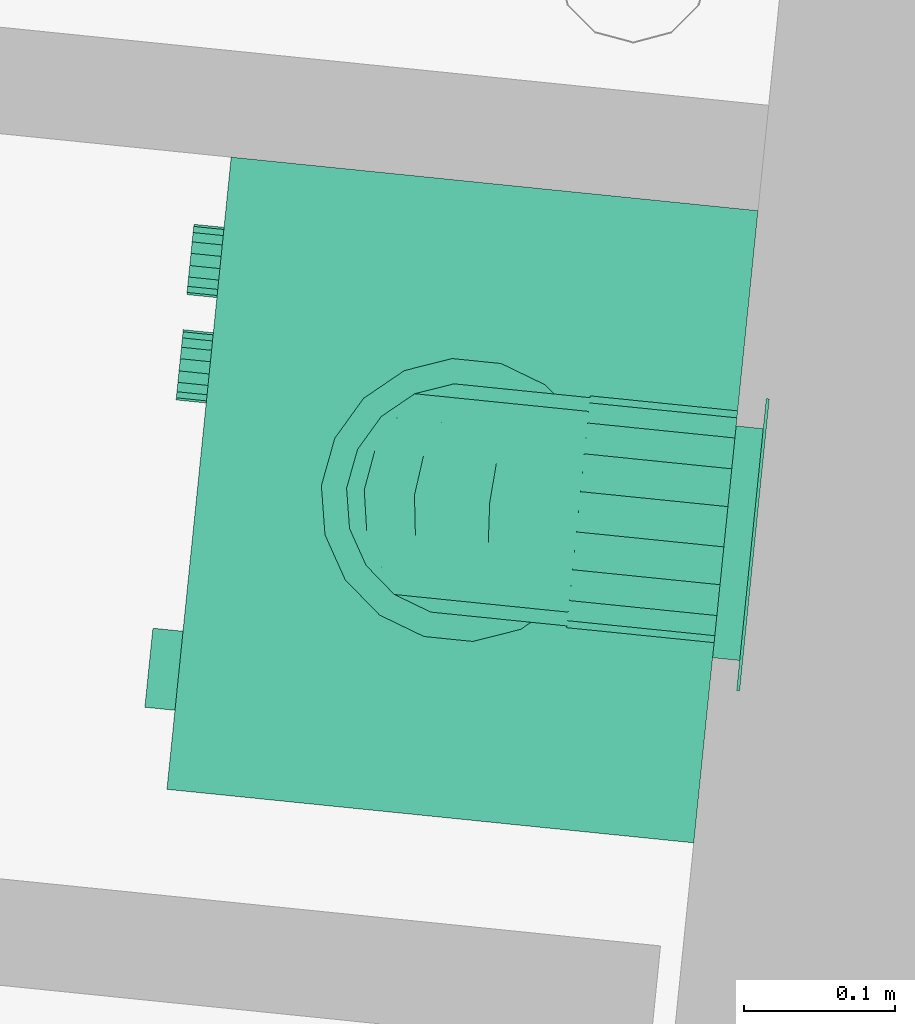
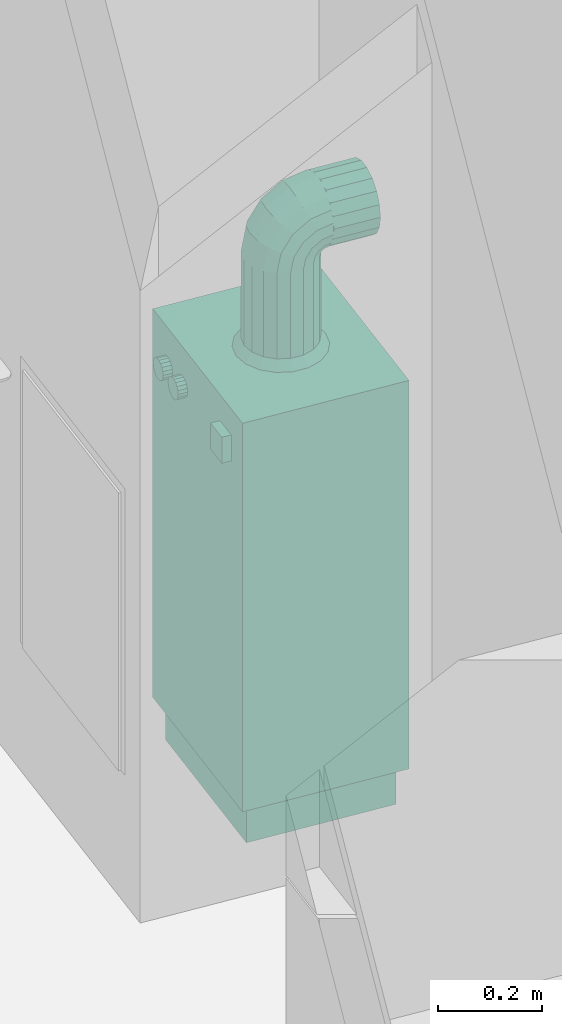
# One storey, part 128 of 171: 1 distribution element.
"""IFC2X3 building model written with IfcOpenShell, lengths in millimetres."""

from ifc_helpers import new_model, entity, si_unit, converted_unit, derived_unit, money_unit, direction, frame, origin_with_axes, place, context, subcontext, project, spatial, open_shell, faceted_brep, surface_model, source, transform, mapped, type_object, element, save


model = new_model("IFC2X3")

# Units and contexts
model_context = context("Model", 3, precision=0.01, world=origin_with_axes(), true_north=direction((0.0, 1.0)))
body_context = subcontext(model_context, "Body", "Model", "MODEL_VIEW")
ifc_project = project(units=[si_unit("LENGTHUNIT", "METRE", prefix="MILLI"), si_unit("AREAUNIT", "SQUARE_METRE"), si_unit("VOLUMEUNIT", "CUBIC_METRE"), converted_unit("PLANEANGLEUNIT", "DEGREE", entity("IfcPlaneAngleMeasure", 0.0174532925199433), si_unit("PLANEANGLEUNIT", "RADIAN"), dimensions=[0, 0, 0, 0, 0, 0, 0]), money_unit("USD"), converted_unit("TIMEUNIT", "Year", entity("IfcTimeMeasure", 31557600.0), si_unit("TIMEUNIT", "SECOND"), dimensions=[0, 0, 1, 0, 0, 0, 0]), si_unit("MASSUNIT", "GRAM", prefix="KILO"), si_unit("THERMODYNAMICTEMPERATUREUNIT", "DEGREE_CELSIUS"), si_unit("LUMINOUSINTENSITYUNIT", "LUMEN"), si_unit("ENERGYUNIT", "JOULE", prefix="MEGA"), derived_unit("THERMALCONDUCTANCEUNIT", [(si_unit("POWERUNIT", "WATT"), 1), (si_unit("LENGTHUNIT", "METRE"), -1), (si_unit("THERMODYNAMICTEMPERATUREUNIT", "KELVIN"), -1)]), derived_unit("SPECIFICHEATCAPACITYUNIT", [(si_unit("ENERGYUNIT", "JOULE"), 1), (si_unit("MASSUNIT", "GRAM", prefix="KILO"), -1), (si_unit("THERMODYNAMICTEMPERATUREUNIT", "KELVIN"), -1)]), derived_unit("MASSDENSITYUNIT", [(si_unit("MASSUNIT", "GRAM", prefix="KILO"), 1), (si_unit("VOLUMEUNIT", "CUBIC_METRE"), -1)])], contexts=[model_context])

# Site, building, storey
site_placement = place(None, origin_with_axes())
site = spatial("IfcSite", under=ifc_project, at=site_placement, Name="Site", CompositionType="ELEMENT")
building_placement = place(site_placement, origin_with_axes())
building = spatial("IfcBuilding", under=site, at=building_placement, Name="Bâtiment", CompositionType="ELEMENT")
storey_placement = place(building_placement, frame((0.0, 0.0, 3000.0), z_axis=(0.0, 0.0, 1.0), x_axis=(1.0, 0.0, 0.0)))
storey = spatial("IfcBuildingStorey", under=building, at=storey_placement, Name="rdc", CompositionType="ELEMENT", Elevation=3000.0)

# Distribution element
distribution_element_type = type_object("IfcDistributionElementType", Name="Chaudière à gaz 27")
shared_shape = source(origin_with_axes(), body_context, "Body", "SurfaceModel", [
    surface_model("IfcShellBasedSurfaceModel", [(-200.0, 350.0, 34.90909090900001), (-200.0, 368.0, 34.90909090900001), (-180.0709335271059, 368.0, 37.53280228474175), (-180.0709335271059, 350.0, 37.53280228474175), (-219.9290664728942, 350.0, 37.53280228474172), (-219.9290664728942, 368.0, 37.53280228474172), (-161.5, 368.0, 45.22513481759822), (-161.5, 350.0, 45.22513481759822), (-238.5000000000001, 350.0, 45.22513481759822), (-238.5000000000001, 368.0, 45.22513481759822), (-145.5527778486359, 368.0, 57.46186875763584), (-145.5527778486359, 350.0, 57.46186875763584), (-254.4472221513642, 350.0, 57.46186875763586), (-254.4472221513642, 368.0, 57.46186875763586), (-133.3160439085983, 368.0, 73.409090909), (-133.3160439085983, 350.0, 73.409090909), (-266.6839560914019, 350.0, 73.40909090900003), (-266.6839560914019, 368.0, 73.40909090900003), (-125.6237113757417, 368.0, 91.9800244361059), (-125.6237113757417, 350.0, 91.9800244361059), (-274.3762886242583, 350.0, 91.98002443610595), (-274.3762886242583, 368.0, 91.98002443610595), (-123.0, 368.0, 111.909090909), (-123.0, 350.0, 111.909090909), (-277.0, 350.0, 111.909090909), (-277.0, 368.0, 111.909090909), (-125.6237113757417, 368.0, 131.8381573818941), (-125.6237113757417, 350.0, 131.8381573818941), (-274.3762886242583, 350.0, 131.8381573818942), (-274.3762886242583, 368.0, 131.8381573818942), (-133.3160439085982, 368.0, 150.409090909), (-133.3160439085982, 350.0, 150.409090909), (-266.6839560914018, 350.0, 150.4090909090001), (-266.6839560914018, 368.0, 150.4090909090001), (-145.5527778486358, 368.0, 166.3563130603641), (-145.5527778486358, 350.0, 166.3563130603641), (-254.4472221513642, 350.0, 166.3563130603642), (-254.4472221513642, 368.0, 166.3563130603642), (-161.5, 368.0, 178.5930470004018), (-161.5, 350.0, 178.5930470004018), (-238.5, 350.0, 178.5930470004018), (-238.5, 368.0, 178.5930470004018), (-180.0709335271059, 368.0, 186.2853795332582), (-180.0709335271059, 350.0, 186.2853795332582), (-219.929066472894, 350.0, 186.2853795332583), (-219.929066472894, 368.0, 186.2853795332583), (-200.0, 368.0, 188.909090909), (-200.0, 350.0, 188.909090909)], [open_shell([[[0, 1, 2, 3]], [[4, 5, 1, 0]], [[3, 2, 6, 7]], [[8, 9, 5, 4]], [[7, 6, 10, 11]], [[12, 13, 9, 8]], [[11, 10, 14, 15]], [[16, 17, 13, 12]], [[15, 14, 18, 19]], [[20, 21, 17, 16]], [[19, 18, 22, 23]], [[24, 25, 21, 20]], [[23, 22, 26, 27]], [[28, 29, 25, 24]], [[27, 26, 30, 31]], [[32, 33, 29, 28]], [[31, 30, 34, 35]], [[36, 37, 33, 32]], [[35, 34, 38, 39]], [[40, 41, 37, 36]], [[39, 38, 42, 43]], [[44, 45, 41, 40]], [[43, 42, 46, 47]], [[47, 46, 45, 44]]])]),
    faceted_brep([(-200.0, 368.0, 14.909090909), (-200.0, 370.0, 14.909090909), (-174.8945526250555, 370.0, 18.21428575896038), (-174.8945526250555, 368.0, 18.21428575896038), (-225.1054473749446, 368.0, 18.21428575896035), (-225.1054473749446, 370.0, 18.21428575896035), (-248.5000000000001, 370.0, 27.90462674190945), (-268.5893577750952, 370.0, 43.31973313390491), (-284.0044641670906, 370.0, 63.40909090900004), (-293.6948051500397, 370.0, 86.80364353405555), (-297.0000000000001, 370.0, 111.909090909), (-293.6948051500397, 370.0, 137.0145382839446), (-284.0044641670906, 370.0, 160.4090909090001), (-268.5893577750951, 370.0, 180.4984486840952), (-248.5, 370.0, 195.9135550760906), (-225.1054473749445, 370.0, 205.6038960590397), (-199.9999999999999, 370.0, 208.909090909), (-174.8945526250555, 370.0, 205.6038960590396), (-151.5, 370.0, 195.9135550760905), (-131.4106422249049, 370.0, 180.4984486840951), (-115.9955358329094, 370.0, 160.409090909), (-106.3051948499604, 370.0, 137.0145382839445), (-103.0, 370.0, 111.909090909), (-106.3051948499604, 370.0, 86.80364353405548), (-115.9955358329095, 370.0, 63.40909090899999), (-131.4106422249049, 370.0, 43.31973313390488), (-151.5, 370.0, 27.90462674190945), (-200.0, 370.0, 34.90909090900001), (-180.0709335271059, 370.0, 37.53280228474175), (-161.5, 370.0, 45.22513481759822), (-145.5527778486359, 370.0, 57.46186875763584), (-133.3160439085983, 370.0, 73.409090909), (-125.6237113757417, 370.0, 91.9800244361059), (-123.0, 370.0, 111.909090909), (-125.6237113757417, 370.0, 131.8381573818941), (-133.3160439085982, 370.0, 150.409090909), (-145.5527778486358, 370.0, 166.3563130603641), (-161.5, 370.0, 178.5930470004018), (-180.0709335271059, 370.0, 186.2853795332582), (-200.0, 370.0, 188.909090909), (-219.929066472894, 370.0, 186.2853795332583), (-238.5, 370.0, 178.5930470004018), (-254.4472221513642, 370.0, 166.3563130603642), (-266.6839560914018, 370.0, 150.4090909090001), (-274.3762886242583, 370.0, 131.8381573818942), (-277.0, 370.0, 111.909090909), (-274.3762886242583, 370.0, 91.98002443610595), (-266.6839560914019, 370.0, 73.40909090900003), (-254.4472221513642, 370.0, 57.46186875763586), (-238.5000000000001, 370.0, 45.22513481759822), (-219.9290664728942, 370.0, 37.53280228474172), (-151.5, 368.0, 27.90462674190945), (-131.4106422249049, 368.0, 43.31973313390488), (-115.9955358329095, 368.0, 63.40909090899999), (-106.3051948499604, 368.0, 86.80364353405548), (-103.0, 368.0, 111.909090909), (-106.3051948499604, 368.0, 137.0145382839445), (-115.9955358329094, 368.0, 160.409090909), (-131.4106422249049, 368.0, 180.4984486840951), (-151.5, 368.0, 195.9135550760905), (-174.8945526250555, 368.0, 205.6038960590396), (-199.9999999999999, 368.0, 208.909090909), (-225.1054473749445, 368.0, 205.6038960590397), (-248.5, 368.0, 195.9135550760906), (-268.5893577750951, 368.0, 180.4984486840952), (-284.0044641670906, 368.0, 160.4090909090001), (-293.6948051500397, 368.0, 137.0145382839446), (-297.0000000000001, 368.0, 111.909090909), (-293.6948051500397, 368.0, 86.80364353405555), (-284.0044641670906, 368.0, 63.40909090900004), (-268.5893577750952, 368.0, 43.31973313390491), (-248.5000000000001, 368.0, 27.90462674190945), (-200.0, 368.0, 34.90909090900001), (-219.9290664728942, 368.0, 37.53280228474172), (-238.5000000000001, 368.0, 45.22513481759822), (-254.4472221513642, 368.0, 57.46186875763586), (-266.6839560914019, 368.0, 73.40909090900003), (-274.3762886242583, 368.0, 91.98002443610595), (-277.0, 368.0, 111.909090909), (-274.3762886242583, 368.0, 131.8381573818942), (-266.6839560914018, 368.0, 150.4090909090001), (-254.4472221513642, 368.0, 166.3563130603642), (-238.5, 368.0, 178.5930470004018), (-219.929066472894, 368.0, 186.2853795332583), (-200.0, 368.0, 188.909090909), (-180.0709335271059, 368.0, 186.2853795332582), (-161.5, 368.0, 178.5930470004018), (-145.5527778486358, 368.0, 166.3563130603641), (-133.3160439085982, 368.0, 150.409090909), (-125.6237113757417, 368.0, 131.8381573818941), (-123.0, 368.0, 111.909090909), (-125.6237113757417, 368.0, 91.9800244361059), (-133.3160439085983, 368.0, 73.409090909), (-145.5527778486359, 368.0, 57.46186875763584), (-161.5, 368.0, 45.22513481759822), (-180.0709335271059, 368.0, 37.53280228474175)], [[[0, 1, 2, 3]], [[4, 5, 1, 0]], [[1, 5, 6, 7, 8, 9, 10, 11, 12, 13, 14, 15, 16, 17, 18, 19, 20, 21, 22, 23, 24, 25, 26, 2], [27, 28, 29, 30, 31, 32, 33, 34, 35, 36, 37, 38, 39, 40, 41, 42, 43, 44, 45, 46, 47, 48, 49, 50]], [[3, 2, 26, 51]], [[0, 3, 51, 52, 53, 54, 55, 56, 57, 58, 59, 60, 61, 62, 63, 64, 65, 66, 67, 68, 69, 70, 71, 4], [72, 73, 74, 75, 76, 77, 78, 79, 80, 81, 82, 83, 84, 85, 86, 87, 88, 89, 90, 91, 92, 93, 94, 95]], [[71, 6, 5, 4]], [[70, 7, 6, 71]], [[69, 8, 7, 70]], [[68, 9, 8, 69]], [[67, 10, 9, 68]], [[66, 11, 10, 67]], [[65, 12, 11, 66]], [[64, 13, 12, 65]], [[63, 14, 13, 64]], [[62, 15, 14, 63]], [[61, 16, 15, 62]], [[60, 17, 16, 61]], [[59, 18, 17, 60]], [[58, 19, 18, 59]], [[57, 20, 19, 58]], [[56, 21, 20, 57]], [[55, 22, 21, 56]], [[54, 23, 22, 55]], [[53, 24, 23, 54]], [[52, 25, 24, 53]], [[51, 26, 25, 52]], [[95, 28, 27, 72]], [[94, 29, 28, 95]], [[93, 30, 29, 94]], [[92, 31, 30, 93]], [[91, 32, 31, 92]], [[90, 33, 32, 91]], [[89, 34, 33, 90]], [[88, 35, 34, 89]], [[87, 36, 35, 88]], [[86, 37, 36, 87]], [[85, 38, 37, 86]], [[84, 39, 38, 85]], [[83, 40, 39, 84]], [[82, 41, 40, 83]], [[81, 42, 41, 82]], [[80, 43, 42, 81]], [[79, 44, 43, 80]], [[78, 45, 44, 79]], [[77, 46, 45, 78]], [[76, 47, 46, 77]], [[75, 48, 47, 76]], [[74, 49, 48, 75]], [[73, 50, 49, 74]], [[72, 27, 50, 73]]]),
    faceted_brep([(-399.0, 17.5, 0.0), (-399.0, 332.5, 0.0), (-21.0, 332.5, 0.0), (-21.0, 17.5, 0.0), (-399.0, 17.5, 90.9090909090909), (-399.0, 332.5, 90.9090909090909), (-21.0, 332.5, 90.9090909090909), (-21.0, 17.5, 90.9090909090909)], [[[0, 1, 2, 3]], [[0, 4, 5, 1]], [[1, 5, 6, 2]], [[2, 6, 7, 3]], [[3, 7, 4, 0]], [[7, 6, 5, 4]]]),
    faceted_brep([(0.0, 350.0, 90.9090909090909), (-420.0, 350.0, 90.90909090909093), (-419.9999999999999, 350.0, 1000.0), (0.0, 350.0, 1000.0), (0.0, 0.0, 90.9090909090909), (-420.0, 0.0, 90.90909090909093), (-419.9999999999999, 0.0, 818.1818181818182), (-419.9999999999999, 17.5, 818.1818181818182), (-419.9999999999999, 17.5, 1000.0), (0.0, 17.5, 1000.0), (0.0, 17.5, 818.1818181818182), (0.0, 0.0, 818.1818181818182)], [[[0, 1, 2, 3]], [[4, 5, 1, 0]], [[1, 5, 6, 7, 8, 2]], [[3, 2, 8, 9]], [[0, 3, 9, 10, 11, 4]], [[11, 6, 5, 4]], [[10, 7, 6, 11]], [[9, 8, 7, 10]]]),
    faceted_brep([(-420.0, 0.0, 818.1818181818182), (-420.0, 17.5, 818.1818181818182), (0.0, 17.5, 818.1818181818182), (0.0, 0.0, 818.1818181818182), (-420.0, 0.0, 1000.0), (-420.0, 17.5, 1000.0), (0.0, 17.5, 1000.0), (0.0, 0.0, 1000.0)], [[[0, 1, 2, 3]], [[0, 4, 5, 1]], [[1, 5, 6, 2]], [[2, 6, 7, 3]], [[3, 7, 4, 0]], [[7, 6, 5, 4]]]),
    faceted_brep([(-301.9261611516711, 0.0, 901.1104390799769), (-303.3333333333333, 0.0, 909.0909090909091), (-301.9261611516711, 0.0, 917.0713791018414), (-297.8743703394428, 0.0, 924.0892866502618), (-291.6666666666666, 0.0, 929.2981685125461), (-284.0517908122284, 0.0, 932.0697566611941), (-275.9482091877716, 0.0, 932.0697566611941), (-268.3333333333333, 0.0, 929.2981685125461), (-262.1256296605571, 0.0, 924.0892866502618), (-258.0738388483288, 0.0, 917.0713791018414), (-256.6666666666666, 0.0, 909.0909090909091), (-258.0738388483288, 0.0, 901.1104390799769), (-262.1256296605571, 0.0, 894.0925315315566), (-268.3333333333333, 0.0, 888.8836496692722), (-275.9482091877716, 0.0, 886.1120615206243), (-284.0517908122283, 0.0, 886.1120615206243), (-291.6666666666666, 0.0, 888.8836496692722), (-297.8743703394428, 0.0, 894.0925315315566), (-301.9261611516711, -19.99999999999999, 901.1104390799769), (-303.3333333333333, -19.99999999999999, 909.0909090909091), (-301.9261611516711, -19.99999999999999, 917.0713791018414), (-297.8743703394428, -19.99999999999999, 924.0892866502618), (-291.6666666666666, -19.99999999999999, 929.2981685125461), (-284.0517908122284, -19.99999999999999, 932.0697566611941), (-275.9482091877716, -19.99999999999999, 932.0697566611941), (-268.3333333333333, -19.99999999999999, 929.2981685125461), (-262.1256296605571, -19.99999999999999, 924.0892866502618), (-258.0738388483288, -19.99999999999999, 917.0713791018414), (-256.6666666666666, -19.99999999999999, 909.0909090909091), (-258.0738388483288, -19.99999999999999, 901.1104390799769), (-262.1256296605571, -19.99999999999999, 894.0925315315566), (-268.3333333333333, -19.99999999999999, 888.8836496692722), (-275.9482091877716, -19.99999999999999, 886.1120615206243), (-284.0517908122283, -19.99999999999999, 886.1120615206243), (-291.6666666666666, -19.99999999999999, 888.8836496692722), (-297.8743703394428, -19.99999999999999, 894.0925315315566)], [[[0, 1, 2, 3, 4, 5, 6, 7, 8, 9, 10, 11, 12, 13, 14, 15, 16, 17]], [[0, 18, 19, 1]], [[1, 19, 20, 2]], [[2, 20, 21, 3]], [[3, 21, 22, 4]], [[4, 22, 23, 5]], [[5, 23, 24, 6]], [[6, 24, 25, 7]], [[7, 25, 26, 8]], [[8, 26, 27, 9]], [[9, 27, 28, 10]], [[10, 28, 29, 11]], [[11, 29, 30, 12]], [[12, 30, 31, 13]], [[13, 31, 32, 14]], [[14, 32, 33, 15]], [[15, 33, 34, 16]], [[16, 34, 35, 17]], [[17, 35, 18, 0]], [[18, 35, 34, 33, 32, 31, 30, 29, 28, 27, 26, 25, 24, 23, 22, 21, 20, 19]]]),
    faceted_brep([(-371.9261611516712, 0.0, 901.1104390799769), (-373.3333333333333, 0.0, 909.0909090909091), (-371.9261611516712, 0.0, 917.0713791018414), (-367.8743703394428, 0.0, 924.0892866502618), (-361.6666666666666, 0.0, 929.2981685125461), (-354.0517908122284, 0.0, 932.0697566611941), (-345.9482091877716, 0.0, 932.0697566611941), (-338.3333333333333, 0.0, 929.2981685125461), (-332.1256296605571, 0.0, 924.0892866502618), (-328.0738388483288, 0.0, 917.0713791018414), (-326.6666666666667, 0.0, 909.0909090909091), (-328.0738388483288, 0.0, 901.1104390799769), (-332.1256296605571, 0.0, 894.0925315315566), (-338.3333333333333, 0.0, 888.8836496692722), (-345.9482091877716, 0.0, 886.1120615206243), (-354.0517908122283, 0.0, 886.1120615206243), (-361.6666666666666, 0.0, 888.8836496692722), (-367.8743703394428, 0.0, 894.0925315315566), (-371.9261611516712, -19.99999999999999, 901.1104390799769), (-373.3333333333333, -19.99999999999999, 909.0909090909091), (-371.9261611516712, -19.99999999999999, 917.0713791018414), (-367.8743703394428, -19.99999999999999, 924.0892866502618), (-361.6666666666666, -19.99999999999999, 929.2981685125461), (-354.0517908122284, -19.99999999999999, 932.0697566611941), (-345.9482091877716, -19.99999999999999, 932.0697566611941), (-338.3333333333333, -19.99999999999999, 929.2981685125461), (-332.1256296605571, -19.99999999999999, 924.0892866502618), (-328.0738388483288, -19.99999999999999, 917.0713791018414), (-326.6666666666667, -19.99999999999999, 909.0909090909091), (-328.0738388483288, -19.99999999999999, 901.1104390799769), (-332.1256296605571, -19.99999999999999, 894.0925315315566), (-338.3333333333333, -19.99999999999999, 888.8836496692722), (-345.9482091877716, -19.99999999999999, 886.1120615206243), (-354.0517908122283, -19.99999999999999, 886.1120615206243), (-361.6666666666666, -19.99999999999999, 888.8836496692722), (-367.8743703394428, -19.99999999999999, 894.0925315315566)], [[[0, 1, 2, 3, 4, 5, 6, 7, 8, 9, 10, 11, 12, 13, 14, 15, 16, 17]], [[0, 18, 19, 1]], [[1, 19, 20, 2]], [[2, 20, 21, 3]], [[3, 21, 22, 4]], [[4, 22, 23, 5]], [[5, 23, 24, 6]], [[6, 24, 25, 7]], [[7, 25, 26, 8]], [[8, 26, 27, 9]], [[9, 27, 28, 10]], [[10, 28, 29, 11]], [[11, 29, 30, 12]], [[12, 30, 31, 13]], [[13, 31, 32, 14]], [[14, 32, 33, 15]], [[15, 33, 34, 16]], [[16, 34, 35, 17]], [[17, 35, 18, 0]], [[18, 35, 34, 33, 32, 31, 30, 29, 28, 27, 26, 25, 24, 23, 22, 21, 20, 19]]]),
    faceted_brep([(-105.0, 0.0, 878.7878787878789), (-105.0, 0.0, 939.3939393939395), (-52.5, 0.0, 939.3939393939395), (-52.5, 0.0, 878.7878787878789), (-105.0, -20.0, 878.7878787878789), (-105.0, -19.99999999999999, 939.3939393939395), (-52.5, -19.99999999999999, 939.3939393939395), (-52.5, -20.0, 878.7878787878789)], [[[0, 1, 2, 3]], [[0, 4, 5, 1]], [[1, 5, 6, 2]], [[2, 6, 7, 3]], [[3, 7, 4, 0]], [[7, 6, 5, 4]]]),
    surface_model("IfcShellBasedSurfaceModel", [(-183.6644489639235, 247.3563318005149, 1220.0), (-183.6644489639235, 247.3563318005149, 1020.0), (-210.0, 252.0, 1020.0), (-210.0, 252.0, 1220.0), (-160.5053540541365, 233.9854221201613, 1220.0), (-160.5053540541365, 233.9854221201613, 1020.0), (-177.9356115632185, 263.0961831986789, 1000.0), (-210.0, 268.75, 1000.0), (-236.3355510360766, 247.356331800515, 1020.0), (-236.3355510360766, 247.356331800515, 1220.0), (-143.3160439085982, 213.5, 1220.0), (-143.3160439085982, 213.5, 1020.0), (-149.7386615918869, 246.8166665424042, 1000.0), (-242.0643884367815, 263.0961831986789, 1000.0), (-259.4946459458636, 233.9854221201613, 1020.0), (-259.4946459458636, 233.9854221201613, 1220.0), (-134.16980301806, 188.3709096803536, 1220.0), (-134.16980301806, 188.3709096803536, 1020.0), (-128.8101183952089, 221.875, 1000.0), (-270.2613384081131, 246.8166665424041, 1000.0), (-276.6839560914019, 213.5, 1020.0), (-276.6839560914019, 213.5, 1220.0), (-134.16980301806, 161.6290903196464, 1220.0), (-134.16980301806, 161.6290903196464, 1020.0), (-117.6742731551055, 191.2795166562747, 1000.0), (-291.1898816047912, 221.8749999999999, 1000.0), (-285.83019698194, 188.3709096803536, 1020.0), (-285.83019698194, 188.3709096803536, 1220.0), (-143.3160439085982, 136.5, 1220.0), (-143.3160439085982, 136.5, 1020.0), (-117.6742731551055, 158.7204833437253, 1000.0), (-302.3257268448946, 191.2795166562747, 1000.0), (-285.83019698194, 161.6290903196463, 1020.0), (-285.83019698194, 161.6290903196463, 1220.0), (-160.5053540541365, 116.0145778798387, 1220.0), (-160.5053540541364, 116.0145778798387, 1020.0), (-128.8101183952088, 128.125, 1000.0), (-302.3257268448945, 158.7204833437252, 1000.0), (-276.6839560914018, 136.4999999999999, 1020.0), (-276.6839560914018, 136.4999999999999, 1220.0), (-183.6644489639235, 102.643668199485, 1220.0), (-183.6644489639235, 102.643668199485, 1020.0), (-149.7386615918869, 103.1833334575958, 1000.0), (-291.1898816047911, 128.1249999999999, 1000.0), (-259.4946459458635, 116.0145778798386, 1020.0), (-259.4946459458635, 116.0145778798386, 1220.0), (-210.0, 97.99999999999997, 1220.0), (-210.0, 97.99999999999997, 1020.0), (-177.9356115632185, 86.90381680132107, 1000.0), (-270.261338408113, 103.1833334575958, 1000.0), (-236.3355510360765, 102.643668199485, 1020.0), (-236.3355510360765, 102.643668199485, 1220.0), (-210.0, 81.24999999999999, 1000.0), (-242.0643884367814, 86.90381680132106, 1000.0)], [open_shell([[[0, 1, 2, 3]], [[4, 5, 1, 0]], [[1, 6, 7, 2]], [[3, 2, 8, 9]], [[10, 11, 5, 4]], [[5, 12, 6, 1]], [[2, 7, 13, 8]], [[9, 8, 14, 15]], [[16, 17, 11, 10]], [[11, 18, 12, 5]], [[8, 13, 19, 14]], [[15, 14, 20, 21]], [[22, 23, 17, 16]], [[17, 24, 18, 11]], [[14, 19, 25, 20]], [[21, 20, 26, 27]], [[28, 29, 23, 22]], [[23, 30, 24, 17]], [[20, 25, 31, 26]], [[27, 26, 32, 33]], [[34, 35, 29, 28]], [[29, 36, 30, 23]], [[26, 31, 37, 32]], [[33, 32, 38, 39]], [[40, 41, 35, 34]], [[35, 42, 36, 29]], [[32, 37, 43, 38]], [[39, 38, 44, 45]], [[46, 47, 41, 40]], [[41, 48, 42, 35]], [[38, 43, 49, 44]], [[45, 44, 50, 51]], [[51, 50, 47, 46]], [[47, 52, 48, 41]], [[44, 49, 53, 50]], [[50, 53, 52, 47]]])]),
    faceted_brep([(-285.83019698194, 161.6290903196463, 1220.0), (-285.83019698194, 168.5081662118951, 1254.583449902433), (-285.83019698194, 193.2143857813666, 1244.349798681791), (-285.83019698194, 188.3709096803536, 1220.0), (-276.6839560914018, 136.4999999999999, 1220.0), (-276.6839560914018, 145.2919139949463, 1264.199936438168), (-285.83019698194, 188.0981169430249, 1283.901883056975), (-285.83019698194, 207.0074387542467, 1264.992561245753), (-276.6839560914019, 213.4999999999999, 1220.0), (-276.6839560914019, 216.4306379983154, 1234.733312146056), (-259.4946459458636, 233.9854221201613, 1220.0), (-236.3355510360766, 247.356331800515, 1220.0), (-210.0, 252.0, 1220.0), (-183.6644489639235, 247.3563318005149, 1220.0), (-160.5053540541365, 233.9854221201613, 1220.0), (-143.3160439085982, 213.5, 1220.0), (-134.16980301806, 188.3709096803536, 1220.0), (-134.16980301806, 161.6290903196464, 1220.0), (-143.3160439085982, 136.5, 1220.0), (-160.5053540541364, 116.0145778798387, 1220.0), (-183.6644489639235, 102.643668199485, 1220.0), (-210.0, 97.99999999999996, 1220.0), (-236.3355510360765, 102.643668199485, 1220.0), (-259.4946459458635, 116.0145778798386, 1220.0), (-259.4946459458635, 126.3658517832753, 1272.039368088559), (-276.6839560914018, 170.3291667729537, 1301.670833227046), (-285.83019698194, 217.4165500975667, 1303.491833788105), (-285.83019698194, 227.6502013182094, 1278.785614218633), (-276.6839560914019, 224.7763889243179, 1247.223611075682), (-259.4946459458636, 235.3567002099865, 1226.893880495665), (-236.3355510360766, 247.7098099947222, 1221.777054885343), (-183.6644489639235, 247.7098099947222, 1221.777054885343), (-160.5053540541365, 235.3567002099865, 1226.893880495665), (-143.3160439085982, 216.4306379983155, 1234.733312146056), (-134.16980301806, 193.2143857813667, 1244.349798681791), (-134.16980301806, 168.5081662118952, 1254.583449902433), (-143.3160439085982, 145.2919139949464, 1264.199936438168), (-160.5053540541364, 126.3658517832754, 1272.039368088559), (-183.6644489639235, 114.0127419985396, 1277.15619369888), (-210.0, 109.7225519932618, 1278.933248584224), (-236.3355510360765, 114.0127419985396, 1277.15619369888), (-259.4946459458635, 155.8437858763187, 1316.156214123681), (-276.6839560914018, 207.8000635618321, 1326.708086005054), (-285.83019698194, 252.0, 1310.370909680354), (-285.83019698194, 252.0, 1283.629090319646), (-276.6839560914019, 237.266687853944, 1255.569362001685), (-259.4946459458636, 239.2617698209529, 1232.738230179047), (-236.3355510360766, 248.7164307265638, 1223.283569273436), (-183.6644489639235, 248.7164307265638, 1223.283569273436), (-160.5053540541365, 239.2617698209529, 1232.738230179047), (-143.3160439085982, 224.7763889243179, 1247.223611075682), (-134.16980301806, 207.0074387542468, 1264.992561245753), (-134.16980301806, 188.0981169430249, 1283.901883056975), (-143.3160439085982, 170.3291667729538, 1301.670833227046), (-160.5053540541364, 155.8437858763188, 1316.156214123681), (-183.6644489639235, 146.3891249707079, 1325.610875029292), (-210.0, 143.1055556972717, 1328.894444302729), (-236.3355510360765, 146.3891249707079, 1325.610875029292), (-259.4946459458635, 199.9606319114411, 1345.634148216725), (-276.6839560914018, 252.0, 1335.5), (-276.6839560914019, 252.0, 1258.5), (-259.4946459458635, 252.0, 1355.985422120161), (-236.3355510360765, 252.0, 1369.356331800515), (-210.0, 252.0, 1374.0), (-183.6644489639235, 252.0, 1369.356331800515), (-160.5053540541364, 252.0, 1355.985422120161), (-143.3160439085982, 252.0, 1335.5), (-134.16980301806, 252.0, 1310.370909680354), (-134.16980301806, 252.0, 1283.629090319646), (-143.3160439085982, 252.0, 1258.5), (-160.5053540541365, 252.0, 1238.014577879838), (-183.6644489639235, 252.0, 1224.643668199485), (-236.3355510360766, 252.0, 1224.643668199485), (-259.4946459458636, 252.0, 1238.014577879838), (-259.4946459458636, 245.1061195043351, 1236.643299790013), (-236.3355510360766, 250.2229451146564, 1224.290190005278), (-183.6644489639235, 250.2229451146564, 1224.290190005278), (-160.5053540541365, 245.1061195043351, 1236.643299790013), (-143.3160439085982, 237.2666878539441, 1255.569362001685), (-134.16980301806, 227.6502013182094, 1278.785614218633), (-134.16980301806, 217.4165500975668, 1303.491833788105), (-143.3160439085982, 207.8000635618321, 1326.708086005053), (-160.5053540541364, 199.9606319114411, 1345.634148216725), (-183.6644489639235, 194.8438063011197, 1357.98725800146), (-210.0, 193.0667514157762, 1362.277448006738), (-236.3355510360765, 194.8438063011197, 1357.98725800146)], [[[0, 1, 2, 3]], [[1, 0, 4, 5]], [[1, 6, 7, 2]], [[8, 3, 2, 9]], [[4, 0, 3, 8, 10, 11, 12, 13, 14, 15, 16, 17, 18, 19, 20, 21, 22, 23]], [[5, 4, 23, 24]], [[6, 1, 5, 25]], [[7, 6, 26, 27]], [[2, 7, 28, 9]], [[29, 10, 8, 9]], [[10, 29, 30, 11]], [[11, 30, 12]], [[31, 13, 12]], [[13, 31, 32, 14]], [[33, 15, 14, 32]], [[15, 33, 34, 16]], [[35, 17, 16, 34]], [[18, 17, 35, 36]], [[37, 19, 18, 36]], [[20, 19, 37, 38]], [[39, 21, 20, 38]], [[22, 21, 39, 40]], [[24, 23, 22, 40]], [[25, 5, 24, 41]], [[6, 25, 42, 26]], [[27, 26, 43, 44]], [[45, 28, 7, 27]], [[46, 29, 9, 28]], [[29, 46, 47, 30]], [[30, 47, 12]], [[48, 31, 12]], [[31, 48, 49, 32]], [[32, 49, 50, 33]], [[34, 33, 50, 51]], [[52, 35, 34, 51]], [[35, 52, 53, 36]], [[54, 37, 36, 53]], [[38, 37, 54, 55]], [[56, 39, 38, 55]], [[57, 40, 39, 56]], [[41, 24, 40, 57]], [[42, 25, 41, 58]], [[26, 42, 59, 43]], [[60, 44, 43, 59, 61, 62, 63, 64, 65, 66, 67, 68, 69, 70, 71, 12, 72, 73]], [[45, 27, 44, 60]], [[28, 45, 74, 46]], [[46, 74, 75, 47]], [[47, 75, 12]], [[76, 48, 12]], [[48, 76, 77, 49]], [[49, 77, 78, 50]], [[50, 78, 79, 51]], [[52, 51, 79, 80]], [[53, 52, 80, 81]], [[82, 54, 53, 81]], [[55, 54, 82, 83]], [[56, 55, 83, 84]], [[85, 57, 56, 84]], [[58, 41, 57, 85]], [[59, 42, 58, 61]], [[61, 58, 85, 62]], [[62, 85, 84, 63]], [[84, 83, 64, 63]], [[82, 65, 64, 83]], [[65, 82, 81, 66]], [[81, 80, 67, 66]], [[80, 79, 68, 67]], [[79, 78, 69, 68]], [[77, 70, 69, 78]], [[77, 76, 71, 70]], [[76, 12, 71]], [[75, 72, 12]], [[74, 73, 72, 75]], [[45, 60, 73, 74]]]),
    surface_model("IfcShellBasedSurfaceModel", [(-137.643668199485, 350.0, 1323.335551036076), (-137.643668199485, 252.0, 1323.335551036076), (-133.0, 252.0, 1297.0), (-133.0, 350.0, 1297.0), (-151.0145778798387, 350.0, 1346.494645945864), (-151.0145778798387, 252.0, 1346.494645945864), (-137.643668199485, 252.0, 1270.664448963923), (-137.643668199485, 350.0, 1270.664448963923), (-171.5, 350.0, 1363.683956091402), (-171.5, 252.0, 1363.683956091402), (-151.0145778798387, 252.0, 1247.505354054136), (-151.0145778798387, 350.0, 1247.505354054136), (-196.6290903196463, 350.0, 1372.83019698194), (-196.6290903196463, 252.0, 1372.83019698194), (-171.5, 252.0, 1230.316043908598), (-171.5, 350.0, 1230.316043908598), (-223.3709096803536, 350.0, 1372.83019698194), (-223.3709096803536, 252.0, 1372.83019698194), (-196.6290903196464, 252.0, 1221.16980301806), (-196.6290903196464, 350.0, 1221.16980301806), (-248.5, 350.0, 1363.683956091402), (-248.5, 252.0, 1363.683956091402), (-223.3709096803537, 252.0, 1221.16980301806), (-223.3709096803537, 350.0, 1221.16980301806), (-268.9854221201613, 350.0, 1346.494645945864), (-268.9854221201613, 252.0, 1346.494645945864), (-248.5000000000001, 252.0, 1230.316043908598), (-248.5000000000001, 350.0, 1230.316043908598), (-282.356331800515, 350.0, 1323.335551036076), (-282.356331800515, 252.0, 1323.335551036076), (-268.9854221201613, 252.0, 1247.505354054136), (-268.9854221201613, 350.0, 1247.505354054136), (-287.0000000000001, 350.0, 1297.0), (-287.0000000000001, 252.0, 1297.0), (-282.356331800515, 252.0, 1270.664448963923), (-282.356331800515, 350.0, 1270.664448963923)], [open_shell([[[0, 1, 2, 3]], [[4, 5, 1, 0]], [[3, 2, 6, 7]], [[8, 9, 5, 4]], [[7, 6, 10, 11]], [[12, 13, 9, 8]], [[11, 10, 14, 15]], [[16, 17, 13, 12]], [[15, 14, 18, 19]], [[20, 21, 17, 16]], [[19, 18, 22, 23]], [[24, 25, 21, 20]], [[23, 22, 26, 27]], [[28, 29, 25, 24]], [[27, 26, 30, 31]], [[32, 33, 29, 28]], [[31, 30, 34, 35]], [[35, 34, 33, 32]]])]),
])
distribution_element_placement = place(storey_placement, frame((2238605.043882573, -614938.3246437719, 0.0), z_axis=(0.0, 0.0, 1.0), x_axis=(-0.1011032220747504, -0.9948759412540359, 0.0)))
element("IfcDistributionElement", 1, at=distribution_element_placement, inside=storey, type_object=distribution_element_type, Name="Obj.-003", context=body_context, shape_type="MappedRepresentation", body=[
    mapped(shared_shape, transform((0.0, 0.0, 0.0))),
])

save(model, "model.ifc")
